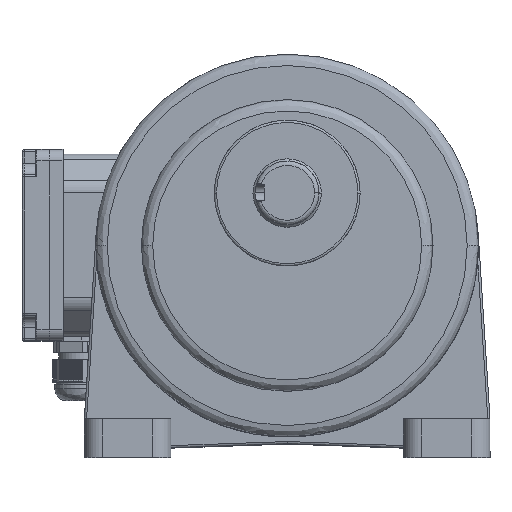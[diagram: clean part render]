
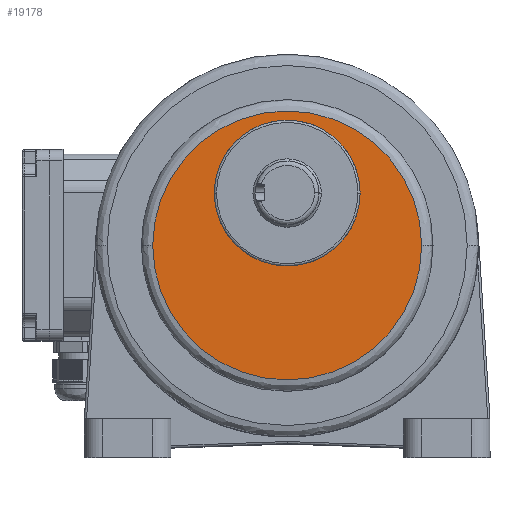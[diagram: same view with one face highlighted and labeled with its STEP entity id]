
A CAD part, top view. The second image highlights one B-rep face of the part: STEP entity #19178.
In plain terms, the highlighted planar face has unit normal (0, 0, 1).
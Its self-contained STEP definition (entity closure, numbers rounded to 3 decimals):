
#19178 = ADVANCED_FACE ( 'NONE', ( #83244, #83290 ), #95596, .T. ) ;
#32606 = CIRCLE ( 'NONE', #52521, 32. ) ;
#32640 = CIRCLE ( 'NONE', #52654, 59. ) ;
#32702 = CIRCLE ( 'NONE', #52789, 32. ) ;
#32724 = CIRCLE ( 'NONE', #52818, 59. ) ;
#40179 = EDGE_LOOP ( 'NONE', ( #78513, #78514 ) ) ;
#40181 = EDGE_LOOP ( 'NONE', ( #78511, #78512 ) ) ;
#49336 = CARTESIAN_POINT ( 'NONE',  ( -32., 23., 94.5 ) ) ;
#49382 = CARTESIAN_POINT ( 'NONE',  ( 32., 23., 94.5 ) ) ;
#49497 = CARTESIAN_POINT ( 'NONE',  ( 59., 0., 94.5 ) ) ;
#49527 = CARTESIAN_POINT ( 'NONE',  ( -59., 0., 94.5 ) ) ;
#50726 = VERTEX_POINT ( 'NONE', #49336 ) ;
#50771 = VERTEX_POINT ( 'NONE', #49382 ) ;
#50839 = VERTEX_POINT ( 'NONE', #49497 ) ;
#50856 = VERTEX_POINT ( 'NONE', #49527 ) ;
#52521 = AXIS2_PLACEMENT_3D ( 'NONE', #61161, #61162, #61163 ) ;
#52654 = AXIS2_PLACEMENT_3D ( 'NONE', #62223, #62224, #62225 ) ;
#52789 = AXIS2_PLACEMENT_3D ( 'NONE', #63495, #63496, #63497 ) ;
#52818 = AXIS2_PLACEMENT_3D ( 'NONE', #68300, #68301, #68302 ) ;
#61161 = CARTESIAN_POINT ( 'NONE',  ( 0., 23., 94.5 ) ) ;
#61162 = DIRECTION ( 'NONE',  ( 0., 0., 1. ) ) ;
#61163 = DIRECTION ( 'NONE',  ( 1., 0., 0. ) ) ;
#62223 = CARTESIAN_POINT ( 'NONE',  ( 0., 0., 94.5 ) ) ;
#62224 = DIRECTION ( 'NONE',  ( 0., 0., 1. ) ) ;
#62225 = DIRECTION ( 'NONE',  ( 1., 0., 0. ) ) ;
#63495 = CARTESIAN_POINT ( 'NONE',  ( 0., 23., 94.5 ) ) ;
#63496 = DIRECTION ( 'NONE',  ( 0., 0., 1. ) ) ;
#63497 = DIRECTION ( 'NONE',  ( 1., 0., 0. ) ) ;
#65126 = EDGE_CURVE ( 'NONE', #50726, #50771, #32606, .T. ) ;
#65299 = EDGE_CURVE ( 'NONE', #50839, #50856, #32640, .T. ) ;
#65509 = EDGE_CURVE ( 'NONE', #50771, #50726, #32702, .T. ) ;
#65545 = EDGE_CURVE ( 'NONE', #50856, #50839, #32724, .T. ) ;
#68300 = CARTESIAN_POINT ( 'NONE',  ( 0., 0., 94.5 ) ) ;
#68301 = DIRECTION ( 'NONE',  ( 0., 0., 1. ) ) ;
#68302 = DIRECTION ( 'NONE',  ( 1., 0., 0. ) ) ;
#78511 = ORIENTED_EDGE ( 'NONE', *, *, #65509, .F. ) ;
#78512 = ORIENTED_EDGE ( 'NONE', *, *, #65126, .F. ) ;
#78513 = ORIENTED_EDGE ( 'NONE', *, *, #65299, .T. ) ;
#78514 = ORIENTED_EDGE ( 'NONE', *, *, #65545, .T. ) ;
#83244 = FACE_BOUND ( 'NONE', #40181, .T. ) ;
#83290 = FACE_OUTER_BOUND ( 'NONE', #40179, .T. ) ;
#83296 = AXIS2_PLACEMENT_3D ( 'NONE', #95597, #95598, #95599 ) ;
#95596 = PLANE ( 'NONE',  #83296 ) ;
#95597 = CARTESIAN_POINT ( 'NONE',  ( 0., 0., 94.5 ) ) ;
#95598 = DIRECTION ( 'NONE',  ( 0., 0., 1. ) ) ;
#95599 = DIRECTION ( 'NONE',  ( 1., 0., 0. ) ) ;
